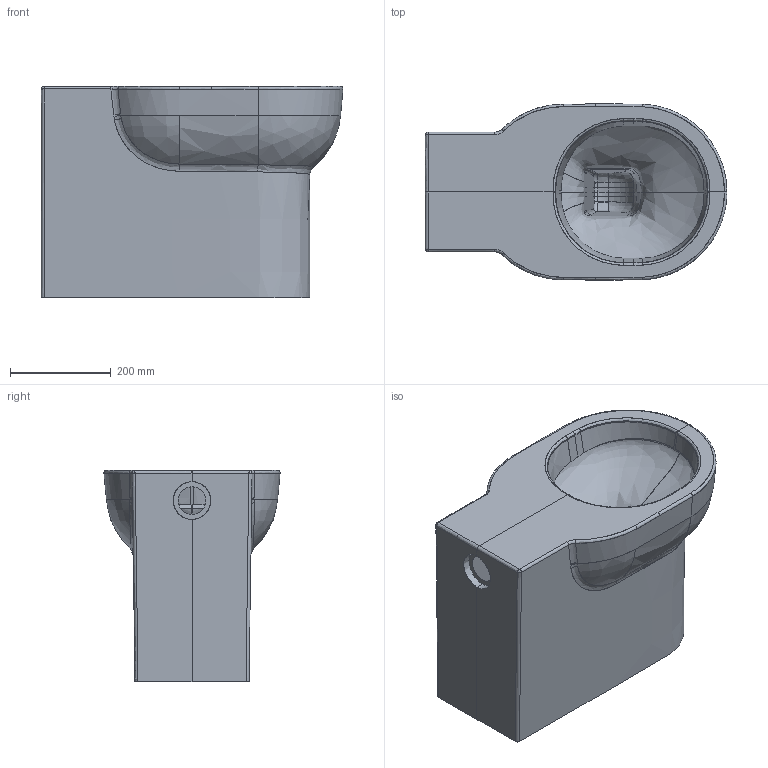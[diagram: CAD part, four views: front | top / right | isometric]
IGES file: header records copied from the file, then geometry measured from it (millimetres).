
Start section: START RECORD GO HERE.
Global section: file name: 5220_3D .igs; native system: DASSAULT SYSTEMES CATIA V5 R19 - www.3ds.com; preprocessor: CATIA Version 5 Release 19 SP 5 ; author: gioge; organization: LAPTOP-G94B6G74; date: 20201109.171157; units: millimetre
Bounding box: 600.04 x 350.18 x 419.83 mm (x, y, z)
Surface area: 984713.2 mm2 (no closed solid volume)
Topology: 0 solids, 0 shells, 160 faces, 990 edges, 979 vertices
Faces by surface type: bspline 143, plane 11, revolution 4, extrusion 2
